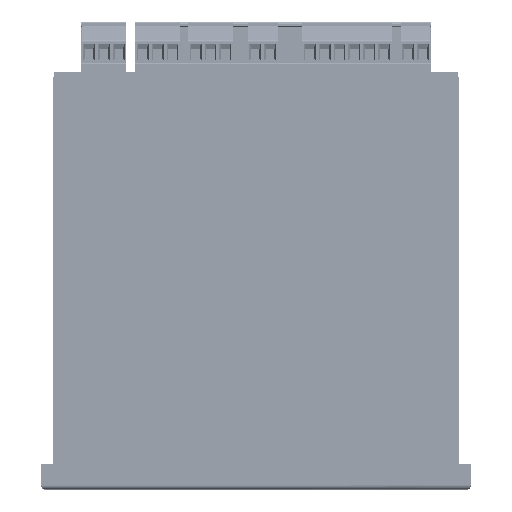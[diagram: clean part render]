
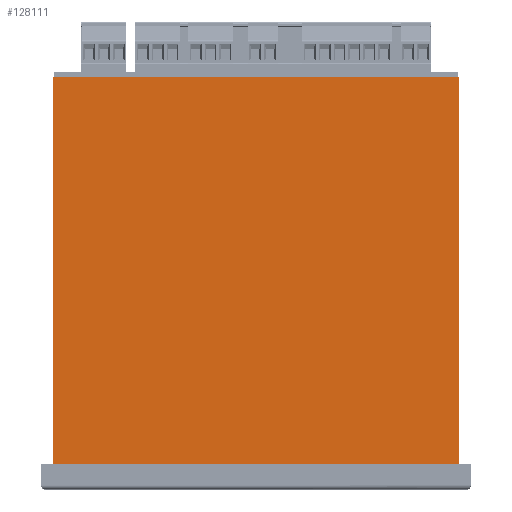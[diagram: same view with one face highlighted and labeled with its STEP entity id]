
A CAD part, top view. The second image highlights one B-rep face of the part: STEP entity #128111.
In plain terms, the highlighted planar face has unit normal (0, 0, 1) as drawn and (0, -1, 0) by its records, which use the part's own axes.
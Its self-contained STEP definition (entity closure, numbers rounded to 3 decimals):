
#7025 = PLANE ( 'NONE',  #129725 ) ;
#9005 = EDGE_CURVE ( 'NONE', #171486, #170672, #136169, .T. ) ;
#14503 = FACE_OUTER_BOUND ( 'NONE', #183558, .T. ) ;
#15712 = DIRECTION ( 'NONE',  ( 0., 0., 1. ) ) ;
#15982 = CARTESIAN_POINT ( 'NONE',  ( -68., -44.75, -138.5 ) ) ;
#24327 = CARTESIAN_POINT ( 'NONE',  ( 68., -44.75, -138.5 ) ) ;
#27700 = VECTOR ( 'NONE', #198246, 1000. ) ;
#41197 = CARTESIAN_POINT ( 'NONE',  ( 68., -44.75, -8.5 ) ) ;
#43886 = CARTESIAN_POINT ( 'NONE',  ( 68., -44.75, -138.5 ) ) ;
#44807 = VECTOR ( 'NONE', #15712, 1000. ) ;
#52103 = EDGE_CURVE ( 'NONE', #171655, #171486, #119365, .T. ) ;
#60292 = ORIENTED_EDGE ( 'NONE', *, *, #147519, .T. ) ;
#62615 = CARTESIAN_POINT ( 'NONE',  ( -68., -44.75, -8.5 ) ) ;
#65996 = CARTESIAN_POINT ( 'NONE',  ( 68., -44.75, -138.5 ) ) ;
#73753 = VECTOR ( 'NONE', #151307, 1000. ) ;
#89421 = DIRECTION ( 'NONE',  ( -1., 0., 0. ) ) ;
#89724 = LINE ( 'NONE', #43886, #27700 ) ;
#110126 = DIRECTION ( 'NONE',  ( 0., 1., 0. ) ) ;
#119365 = LINE ( 'NONE', #65996, #73753 ) ;
#123168 = CARTESIAN_POINT ( 'NONE',  ( 68., -44.75, -8.5 ) ) ;
#128111 = ADVANCED_FACE ( 'NONE', ( #14503 ), #7025, .F. ) ;
#129725 = AXIS2_PLACEMENT_3D ( 'NONE', #24327, #110126, #161701 ) ;
#135696 = EDGE_CURVE ( 'NONE', #189759, #170672, #178556, .T. ) ;
#136169 = LINE ( 'NONE', #15982, #44807 ) ;
#140434 = CARTESIAN_POINT ( 'NONE',  ( -68., -44.75, -138.5 ) ) ;
#147217 = ORIENTED_EDGE ( 'NONE', *, *, #9005, .F. ) ;
#147519 = EDGE_CURVE ( 'NONE', #171655, #189759, #89724, .T. ) ;
#151307 = DIRECTION ( 'NONE',  ( -1., 0., 0. ) ) ;
#161701 = DIRECTION ( 'NONE',  ( 0., 0., 1. ) ) ;
#170672 = VERTEX_POINT ( 'NONE', #62615 ) ;
#171486 = VERTEX_POINT ( 'NONE', #140434 ) ;
#171655 = VERTEX_POINT ( 'NONE', #213559 ) ;
#172563 = ORIENTED_EDGE ( 'NONE', *, *, #52103, .F. ) ;
#173177 = VECTOR ( 'NONE', #89421, 1000. ) ;
#178556 = LINE ( 'NONE', #123168, #173177 ) ;
#183558 = EDGE_LOOP ( 'NONE', ( #193649, #147217, #172563, #60292 ) ) ;
#189759 = VERTEX_POINT ( 'NONE', #41197 ) ;
#193649 = ORIENTED_EDGE ( 'NONE', *, *, #135696, .T. ) ;
#198246 = DIRECTION ( 'NONE',  ( 0., 0., 1. ) ) ;
#213559 = CARTESIAN_POINT ( 'NONE',  ( 68., -44.75, -138.5 ) ) ;
